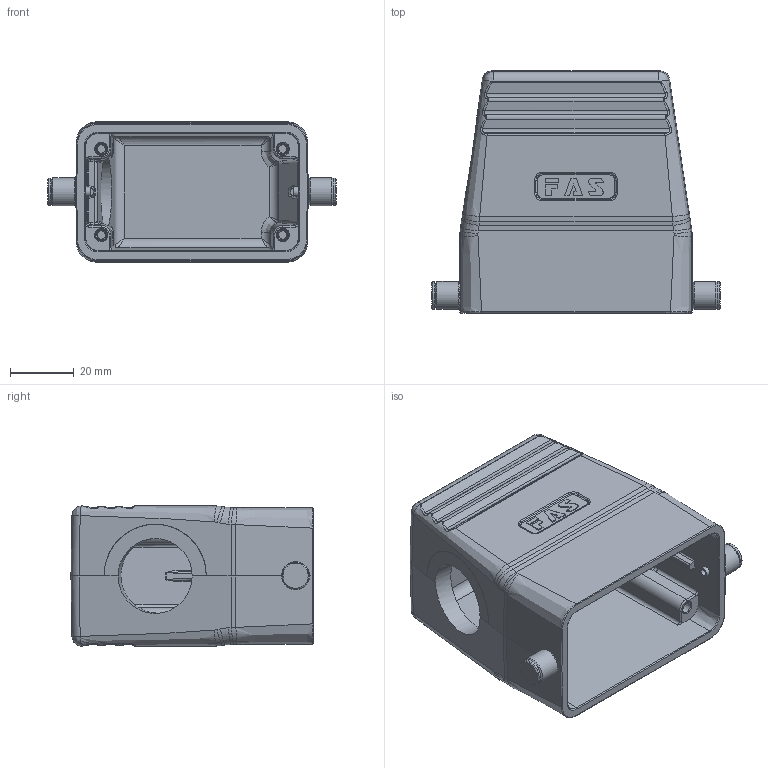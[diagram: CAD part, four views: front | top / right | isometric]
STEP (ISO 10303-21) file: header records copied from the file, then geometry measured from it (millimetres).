
FILE_DESCRIPTION (( 'STEP AP203' ), '1' );
FILE_NAME ('H10B-TSH-RO-M25.STEP', '2023-06-07T07:56:57', ( '' ), ( '' ), 'SwSTEP 2.0', 'SolidWorks 2016', '' );
FILE_SCHEMA (( 'CONFIG_CONTROL_DESIGN' ));
Length unit declared in the file: millimetre
Products named in the file (1): H10B-TSH-RO-M25
Bounding box: 90.57 x 76 x 44 mm (x, y, z)
Volume: 75107.5 mm3; surface area: 35529.9 mm2
Topology: 1 solids, 1 shells, 496 faces, 1224 edges, 757 vertices
Faces by surface type: cylinder 159, plane 152, bspline 111, torus 46, cone 24, sphere 4
Full cylindrical faces by diameter (mm): 2 x2, 3 x2, 4.8 x2, 5 x2, 8.5 x2, 8.8 x2, 23.5 x1
Entity records: 25230 total; most frequent: CARTESIAN_POINT 15374, ORIENTED_EDGE 2330, DIRECTION 1508, EDGE_CURVE 1165, VERTEX_POINT 739, EDGE_LOOP 566, AXIS2_PLACEMENT_3D 554, FACE_OUTER_BOUND 513
